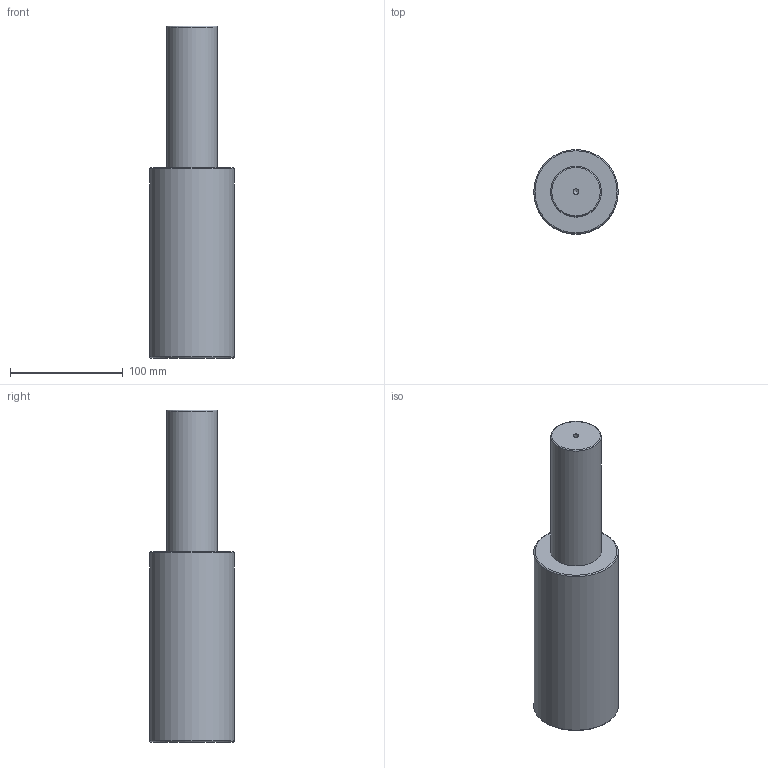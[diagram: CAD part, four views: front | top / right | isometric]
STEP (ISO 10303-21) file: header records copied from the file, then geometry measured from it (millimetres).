
FILE_DESCRIPTION(/* description */ (''),/* implementation_level */ '2;1');
FILE_NAME(/* name */ 'NV5-SMLX.75x125.stp',/* time_stamp */ '2018-08-31T16:08:30+02:00',/* author */ (''),/* organization */ (''),/* preprocessor_version */ 'ST-DEVELOPER v16',/* originating_system */ 'SIEMENS PLM Software NX 10.0',/* authorisation */ '');
FILE_SCHEMA (('AUTOMOTIVE_DESIGN { 1 0 10303 214 3 1 1 1 }'));
Length unit declared in the file: millimetre
Products named in the file (1): NV5-SMLX.75x125
Bounding box: 75 x 75 x 295 mm (x, y, z)
Volume: 944904.7 mm3; surface area: 67041.1 mm2
Topology: 1 solids, 1 shells, 12 faces, 24 edges, 15 vertices
Faces by surface type: cylinder 4, torus 3, plane 3, cone 2
Full cylindrical faces by diameter (mm): 5 x1, 10.3 x1, 45 x1, 75 x1
Entity records: 266 total; most frequent: DIRECTION 48, CARTESIAN_POINT 37, FACE_BOUND 24, AXIS2_PLACEMENT_3D 24, EDGE_LOOP 22, ORIENTED_EDGE 22, VERTEX_POINT 13, ADVANCED_FACE 12
